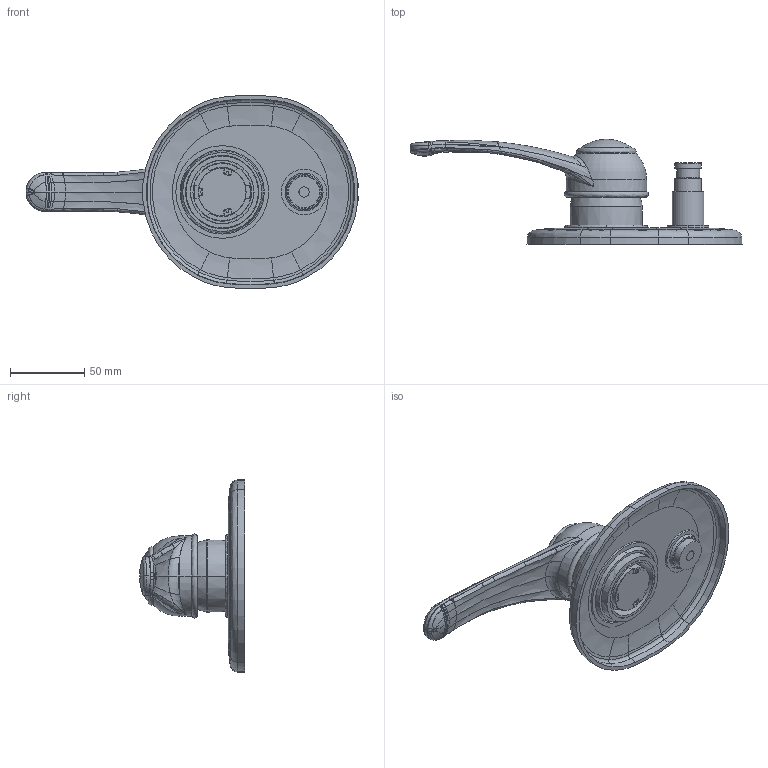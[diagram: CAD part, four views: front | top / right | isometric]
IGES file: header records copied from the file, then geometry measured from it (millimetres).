
Start section:  PTC IGES file: 29010.igs
Global section: file name: 29010.igs; native system: Creo Parametric by PTC Inc.; preprocessor: 2022014; author: carloff; organization: Unknown; date: 20260515.152131; units: millimetre
Bounding box: 223.14 x 70.63 x 129.8 mm (x, y, z)
Surface area: 109375.5 mm2 (no closed solid volume)
Topology: 0 solids, 0 shells, 1790 faces, 9604 edges, 9596 vertices
Faces by surface type: revolution 932, bspline 858
